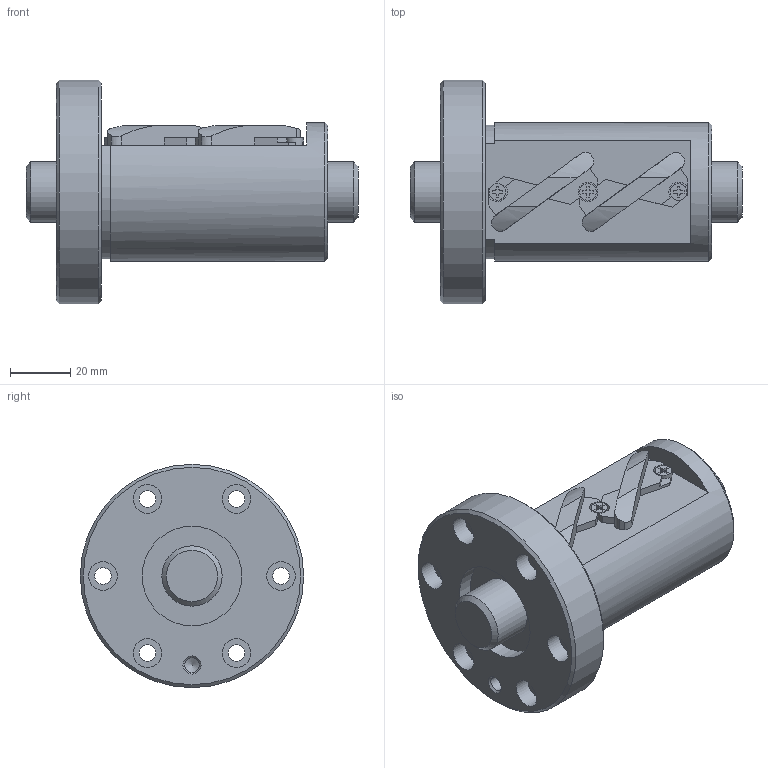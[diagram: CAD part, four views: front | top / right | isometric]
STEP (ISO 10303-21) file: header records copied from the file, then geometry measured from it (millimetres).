
FILE_DESCRIPTION(/* description */ ('STEP AP203'),/* implementation_level */ '2;1');
FILE_NAME(/* name */ 'SBN2010V-5G0+110LC0(0000)',/* time_stamp */ '2024-05-28T10:24:22+02:00',/* author */ ('License CC BY-ND 4.0'),/* organization */ ('CADENAS'),/* preprocessor_version */ 'ST-DEVELOPER v19.3',/* originating_system */ 'PARTsolutions',/* authorisation */ ' ');
FILE_SCHEMA (('CONFIG_CONTROL_DESIGN'));
Length unit declared in the file: millimetre
Products named in the file (3): SBN2010V-5G0+110LC0(0000); N010SBN2010V-50Shaft; N00SBN2010V-5Nut
Assembly tree (2 placements, depth 2):
  SBN2010V-5G0+110LC0(0000)
    N010SBN2010V-50Shaft
    N00SBN2010V-5Nut
Bounding box: 110 x 74 x 74 mm (x, y, z)
Volume: 176772.3 mm3; surface area: 39117.1 mm2
Topology: 2 solids, 2 shells, 162 faces, 411 edges, 272 vertices
Faces by surface type: plane 104, cylinder 51, cone 7
Full cylindrical faces by diameter (mm): 4.917 x1, 5.5 x9, 9.5 x6, 20 x2, 33 x2, 46 x1, 74 x1
Entity records: 4807 total; most frequent: CARTESIAN_POINT 842, DIRECTION 806, ORIENTED_EDGE 754, EDGE_CURVE 377, AXIS2_PLACEMENT_3D 272, VERTEX_POINT 268, LINE 262, VECTOR 262
